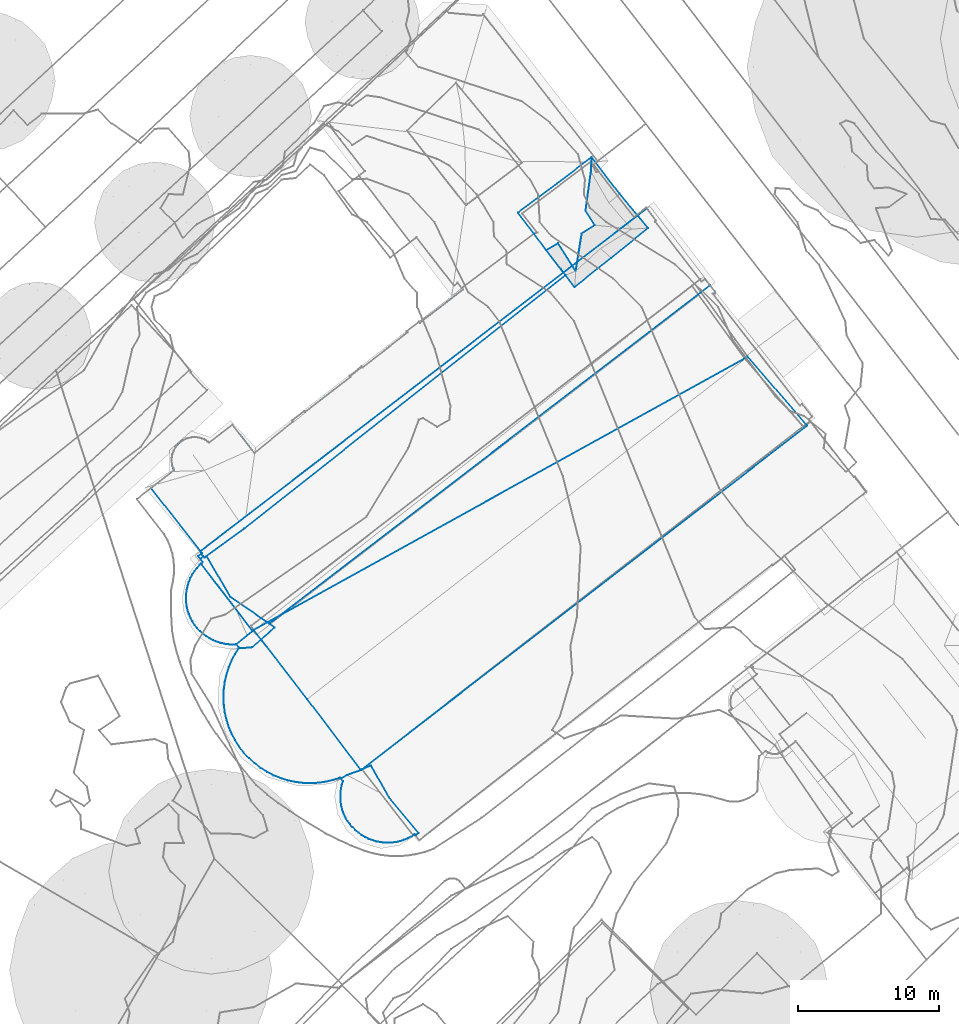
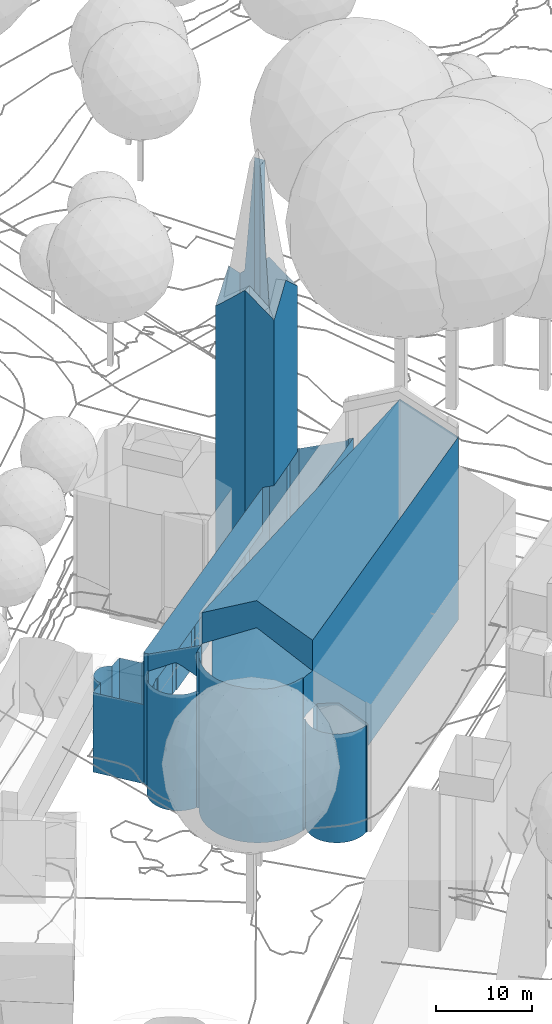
# Not in any storey, part 29 of 477: 2 walls.
"""IFC4 building model written with IfcOpenShell, lengths in metres."""

from ifc_helpers import new_model, si_unit, frame, origin_with_axes, place, context, subcontext, project, spatial, polygons, element, save


model = new_model("IFC4")

# Units and contexts
model_context = context("Model", 3, precision=1e-05, world=origin_with_axes())
body_context = subcontext(model_context, "Body", "Model", "MODEL_VIEW")
ifc_project = project(units=[si_unit("AREAUNIT", "SQUARE_METRE"), si_unit("LENGTHUNIT", "METRE")], contexts=[model_context])

# Sites, building
site_1_placement = place(None, origin_with_axes())
site_1 = spatial("IfcSite", under=ifc_project, at=site_1_placement, Name="Topoexport Site")
site_2_placement = place(site_1_placement, origin_with_axes())
site_2 = spatial("IfcSite", under=site_1, at=site_2_placement, Name="TPX_BUILDINGS")
building_placement = place(site_2_placement, frame((140.4987320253, 222.5740160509, 530.262), z_axis=(0.0, 0.0, 1.0), x_axis=(1.0, 0.0, 0.0)))
building = spatial("IfcBuilding", under=site_2, at=building_placement, Name="Building 152", CompositionType="ELEMENT")

# Walls
wall_1_placement = place(None, frame((140.4987320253, 222.5740160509, 530.262), z_axis=(0.0, 0.0, 1.0), x_axis=(1.0, 0.0, 0.0)))
element("IfcWall", 1, at=wall_1_placement, inside=building, Name="Wall 1", context=body_context, shape_type="Tessellation", body=[
    polygons([(24.0830000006, 32.1660000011, 2.3338), (23.7030000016, 29.4199000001, 2.3338), (24.0830000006, 32.1660000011, 38.8453), (24.1420000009, 33.2148000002, 2.3338), (24.1420000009, 33.2148000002, 37.9304), (21.6850000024, 31.3408000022, 2.3338), (21.6850000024, 31.3409000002, 40.8551), (24.3619999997, 28.4013999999, 55.1068), (23.7030000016, 29.4200000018, 55.1068), (24.3619999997, 28.4013999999, 2.3338), (23.432, 27.7998000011, 2.3338), (23.0050000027, 25.1494000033, 2.3338), (21.7540000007, 27.0976999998, 2.3338), (23.0050000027, 25.1494000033, 38.8453), (23.432, 27.7998000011, 55.1048), (20.9180000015, 26.6152999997, 40.8551), (21.7540000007, 27.0976999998, 40.8551), (20.9180000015, 26.6152999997, 2.3338), (20.0500000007, 27.7920000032, 39.5353), (20.0500000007, 27.7920000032, 2.3338), (18.9100000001, 29.2725000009, 37.9304), (18.9100000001, 29.2725000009, 2.3338), (23.4310000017, 27.7989000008, 55.1068)], [[[3, 2, 1]], [[5, 1, 4]], [[7, 5, 6]], [[9, 8, 2]], [[8, 11, 10]], [[14, 13, 12]], [[15, 14, 11]], [[17, 16, 13]], [[16, 19, 18]], [[19, 21, 20]], [[21, 6, 22]], [[9, 2, 3]], [[3, 1, 5]], [[5, 4, 6]], [[8, 10, 2]], [[23, 11, 8]], [[17, 13, 14]], [[14, 12, 11]], [[16, 18, 13]], [[19, 20, 18]], [[21, 22, 20]], [[7, 6, 21]]]),
])
wall_2_placement = place(None, frame((140.4987320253, 222.5740160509, 530.262), z_axis=(0.0, 0.0, 1.0), x_axis=(1.0, 0.0, 0.0)))
element("IfcWall", 2, at=wall_2_placement, inside=building, Name="Wall 2", context=body_context, shape_type="Tessellation", body=[
    polygons([(2.0380000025, 0.7217000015, 19.5062), (0.2019999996, -0.2938999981, 23.4248), (0.2019999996, -0.2938999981, 19.4742), (0.2019999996, -0.2938999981, 19.3632), (35.2050000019, 19.0742000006, 0.0), (35.2050000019, 19.0742000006, 26.6015), (2.0380000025, 0.7217000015, 0.0), (28.7089000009, 28.7207000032, 16.7854), (28.6239, 28.6543000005, -0.2049), (28.6239, 28.6542000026, 16.7854), (-3.5700000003, 5.2969000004, 9.6791), (-0.8439999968, 7.389700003, 10.743), (-3.5700000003, 5.2969000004, 16.2925), (1.6970000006, 9.3418000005, 10.615), (-0.375, 7.75, 10.583), (-3.3029999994, 5.5020000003, 9.7321), (15.439000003, 19.8936000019, 10.694), (22.1420000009, 25.0410000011, 10.729), (22.1420000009, 25.0420000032, 16.2925), (-1.5309999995, 1.7920000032, 16.3235), (-1.5799999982, 1.8564999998, 16.3385), (0.1220000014, -0.360299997, 19.3652), (-1.6209999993, 1.9101999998, 16.3375), (-1.443, 1.6787, 16.2705), (0.1220000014, -0.360299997, 14.9526), (-1.1039999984, 1.2364000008, 16.0345), (-1.8029999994, 2.1465000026, 16.2205), (-3.5350000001, 4.4024000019, 16.6255), (-1.7039999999, 2.0186000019, 16.3005), (-1.6579999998, 1.9580000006, 16.3275), (-2.0339999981, 2.447300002, 15.9915), (-3.5350000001, 4.4024000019, 14.4227), (32.1730000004, 24.5800999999, 19.2462), (32.1730000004, 24.5800999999, -0.2049), (32.5240000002, 24.1319000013, -0.2049), (31.9360000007, 24.3955000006, -0.2049), (31.9360000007, 24.3955000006, 19.2472), (30.0730000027, 26.7920000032, 17.8623), (-2.9589999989, 12.9776000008, 9.7071), (-3.0709999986, 13.0645000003, 9.6991), (-2.9589999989, 12.9776000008, -0.4029), (-3.0719999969, 13.0655000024, -0.4029), (-3.3189999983, 13.2100000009, -0.4029), (-3.4499999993, 13.264700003, 9.6681), (-3.4499999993, 13.264700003, -0.4029), (-3.7259999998, 13.3388999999, -0.4029), (-3.7259999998, 13.3388999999, 9.6641), (-3.867999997, 13.3574000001, 9.6691), (-3.867999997, 13.3575000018, -0.4029), (-4.1569999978, 13.3564999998, -0.4029), (-4.1539999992, 13.3564999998, 9.6911), (-4.186999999, 13.3526000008, 9.6951), (-4.9489999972, 13.0606000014, 9.5811), (-4.8289999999, 13.1387000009, -0.4029), (-4.8289999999, 13.1387000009, 9.5891), (-4.9489999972, 13.0606000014, -0.4029), (-5.1649999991, 12.876000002, 9.5801), (-5.3439999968, 12.6543000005, -0.4029), (-5.481999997, 12.4063000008, 9.6401), (-5.481999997, 12.4063000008, -0.4029), (-5.3439999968, 12.6543000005, 9.6001), (-4.2949999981, 13.3379000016, 9.6711), (-4.2949999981, 13.3379000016, -0.4029), (-4.5709999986, 13.2617000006, 9.6201), (-4.5709999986, 13.2617000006, -0.4029), (-5.6030000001, 11.9990000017, -0.4029), (-5.6030000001, 11.9990000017, 9.6021), (-5.6209999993, 11.7149000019, 9.5921), (-5.5899999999, 11.4317000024, -0.4029), (-5.5899999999, 11.4317000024, 9.5991), (-5.5089999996, 11.1601999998, 9.6231), (-5.5099999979, 11.1631000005, -0.4029), (11.9660000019, 21.4610000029, -0.4029), (11.9050000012, 21.5401000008, 9.5131), (11.9050000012, 21.5410000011, -0.4029), (11.9660000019, 21.4610000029, 5.8175), (7.9079999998, 18.3037, -0.4029), (11.1050000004, 20.7901000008, -0.4029), (11.1050000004, 20.7901000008, 9.5401), (3.7900000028, 15.2276000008, -0.4029), (3.8509999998, 15.1485000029, 9.4481), (3.7900000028, 15.2276000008, 9.4091), (3.8509999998, 15.1485000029, -0.4029), (2.9210000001, 14.5518000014, 9.3981), (2.9210000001, 14.5518000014, -0.4029), (2.9820000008, 14.4726999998, -0.4029), (0.2540000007, 12.25, -0.4029), (2.9820000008, 14.4726999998, 9.4371), (0.2540000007, 12.25, 9.4321), (7.8470000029, 18.3828000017, -0.4029), (6.9860000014, 17.7129000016, 9.4501), (6.9860000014, 17.7129000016, -0.4029), (-5.4509999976, 11.0293000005, 7.1254), (-5.4959999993, 11.1319000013, 9.6271), (-5.4509999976, 11.0293000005, 9.6351), (-5.4509999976, 11.0293000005, 3.3617), (-5.4509999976, 11.0293000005, -0.4029), (15.0130000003, 23.8300999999, 7.0844), (14.9360000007, 23.9287, 9.5381), (15.0130000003, 23.8300999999, 9.5791), (15.0130000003, 23.8300999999, 2.0928), (15.0130000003, 23.8300999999, 4.5886), (15.0130000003, 23.8300999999, -0.4029), (14.9360000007, 23.9287, -0.4029), (20.0500000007, 27.7920000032, -0.4029), (20.9180000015, 26.6152999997, 2.3338), (20.0500000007, 27.7920000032, 9.6111), (20.9180000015, 26.6152999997, -0.4029), (-3.3019999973, 4.827200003, -0.4029), (-0.4969999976, 6.879900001, -0.2049), (-0.4969999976, 6.879900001, -0.4029), (-3.1359999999, 4.9483000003, -0.2049), (-3.1359999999, 4.9483000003, -0.3169), (-3.3019999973, 4.827200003, -0.3169), (-3.3949999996, 4.9356000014, -0.3169), (-3.5359999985, 5.1006000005, -0.4029), (-3.5359999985, 5.1006000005, -0.2049), (-3.3949999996, 4.9356000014, -0.2049), (22.2920000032, 24.8496000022, -0.4029), (22.2920000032, 24.8496000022, -0.2049), (32.5240000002, 24.1319000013, 19.5062), (1.2910000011, 0.1485000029, -0.2049), (1.2910000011, 0.1485000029, 0.0), (8.3500000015, -15.1005999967, 0.293), (8.3500000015, -15.1005999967, 14.1387), (8.6180000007, -15.2011999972, 14.1267), (8.6180000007, -15.2011999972, 0.293), (8.8940000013, -15.2792999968, 14.1287), (8.8940000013, -15.2792999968, 0.293), (9.1760000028, -15.3339999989, 0.293), (9.1750000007, -15.3339999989, 14.1417), (7.6119999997, -14.6659999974, 14.1387), (7.393000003, -14.4813999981, 0.293), (7.393000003, -14.4813999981, 14.1367), (7.6119999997, -14.6659999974, 0.293), (7.8450000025, -14.8310000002, 0.293), (6.6950000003, -13.5800999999, 0.293), (6.5720000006, -13.3125, 0.293), (6.6950000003, -13.5800999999, 14.1127), (6.8399999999, -13.8270999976, 14.1167), (6.8399999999, -13.8270999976, 0.293), (7.006000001, -14.0604999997, 8.9432), (7.006000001, -14.0604999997, 0.293), (6.3550000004, -12.4530999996, 14.1117), (6.3550000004, -12.4530999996, 0.293), (6.3340000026, -12.1581999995, 14.1267), (6.3340000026, -12.1571999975, 0.293), (6.4010000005, -12.745099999, 14.1087), (6.4010000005, -12.745099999, 0.293), (6.4740000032, -13.0321999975, 0.293), (10.8540000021, -15.1620999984, 14.0077), (10.8540000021, -15.1620999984, 0.293), (10.5860000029, -15.248999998, 0.293), (11.1150000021, -15.0537, 13.9737), (11.1150000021, -15.0537, 0.293), (11.3650000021, -14.9218999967, 13.9547), (11.3650000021, -14.9217999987, 0.293), (11.6030000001, -14.7704999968, 13.9497), (11.6030000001, -14.7704999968, 0.293), (11.8830000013, -14.6844999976, 0.293), (11.6520000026, -14.8329999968, 13.9027), (11.8830000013, -14.6844999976, 13.8987), (11.6520000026, -14.8329999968, 0.293), (9.7930000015, -12.1805999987, 0.293), (9.7930000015, -12.1805999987, 15.8205), (9.745000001, -15.3710999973, 14.0917), (9.745000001, -15.3710999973, 0.293), (9.4590000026, -15.3641999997, 0.293), (9.4590000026, -15.3641999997, 14.1237), (9.4590000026, -15.3641999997, 8.0722), (10.0310000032, -15.3534999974, 0.293), (10.3100000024, -15.3134999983, 0.293), (10.3100000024, -15.3134999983, 14.0697), (10.0310000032, -15.3534999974, 14.0747), (6.4310000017, -11.2782999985, 0.293), (6.3720000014, -11.5682999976, 14.1077), (6.3720000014, -11.5682999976, 0.293), (6.4310000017, -11.2782999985, 10.658), (6.4310000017, -11.2782999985, 5.4755), (6.3399999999, -11.8622999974, 0.293), (6.3399999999, -11.8622999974, 8.9322), (8.5170000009, -9.8983999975, 0.293), (8.5170000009, -9.8983999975, 14.7756), (39.4150000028, 14.1826000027, 23.2798), (7.8960000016, -10.1444999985, 0.293), (7.8960000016, -10.1444999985, 14.6286), (39.4150000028, 14.1826000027, 0.0), (7.7970000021, -10.2206999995, 19.3772), (7.7970000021, -10.2206999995, 0.0), (7.7970000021, -10.2206999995, 23.2798), (7.7970000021, -10.2206999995, 0.293), (7.7970000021, -10.2206999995, 14.6156), (-3.4109999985, -0.566399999, 14.4567), (-3.185999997, -0.7372999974, 14.4507), (-3.4109999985, -0.566399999, 6.1464), (-3.185999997, -0.7372999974, -0.3169), (-3.4109999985, -0.566399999, -0.3169), (-2.9459999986, -0.8895999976, -0.3169), (-2.9459999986, -0.8895999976, 14.4597), (-2.6959999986, -1.0194999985, -0.3169), (-2.6950000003, -1.0194999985, 14.4836), (-4.1429999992, 0.2920000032, -0.3169), (-4.1659999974, 0.3350000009, 14.4377), (-4.1429999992, 0.2920000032, 14.4337), (-4.1679999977, 0.3388999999, -0.3169), (-3.987999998, 0.0547000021, -0.3169), (-3.987999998, 0.0547000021, 14.4257), (-3.8139999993, -0.1678999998, -0.3169), (-3.6209999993, -0.3759999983, 6.1464), (-3.8139999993, -0.1678999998, 14.4327), (-3.6209999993, -0.3759000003, 14.4557), (-3.6209999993, -0.3759000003, -0.3169), (-4.3919999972, 0.8096000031, 14.4217), (-4.3919999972, 0.8096000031, -0.3169), (-4.481999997, 1.0869000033, -0.3169), (-4.2769999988, 0.5420000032, -0.3169), (-4.2769999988, 0.5420000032, 14.4237), (-4.5889999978, 1.6612000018, 14.4107), (-4.5889999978, 1.6612000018, -0.3169), (-4.6039999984, 1.952200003, 14.4167), (-4.6039999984, 1.9502000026, -0.3169), (-4.5480000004, 1.3721000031, 7.9743), (-4.5480000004, 1.3721000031, 14.4227), (-4.5480000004, 1.3721000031, -0.3169), (-1.3229999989, -1.3290999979, 14.5166), (-1.0399999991, -1.3192999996, 14.5406), (-1.3229999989, -1.3290999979, 10.802), (-1.3229999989, -1.3290999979, -0.3169), (-1.0399999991, -1.3192999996, -0.3169), (0.0890000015, -1.5282999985, -0.3169), (-0.8789999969, -1.6014999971, -0.071), (0.0890000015, -1.5282999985, -0.071), (-2.1629999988, -1.2137999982, -0.3169), (-2.4329999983, -1.1278999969, -0.3169), (-2.1629999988, -1.2137999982, 14.4656), (-2.4329999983, -1.1278999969, 14.4746), (-2.4329999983, -1.1278999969, 10.776), (-1.8869999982, -1.2762999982, -0.3169), (-1.8869999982, -1.2762999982, 14.4716), (-1.6059999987, -1.3153999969, 5.2365), (-1.6059999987, -1.3153999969, -0.3169), (-4.555999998, 2.5322000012, -0.3169), (-4.493999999, 2.817400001, 14.3887), (-4.555999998, 2.5322000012, 14.3847), (-4.493999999, 2.817400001, -0.3169), (-4.5929999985, 2.2442000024, -0.3169), (-3.8259999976, 4.1026000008, 14.3947), (-3.8259999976, 4.1026000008, -0.3169), (-3.6289999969, 4.317400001, -0.3169), (-3.6289999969, 4.317400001, 14.4087), (-3.924999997, 3.9737000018, 14.3957), (-4.0039999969, 3.8721000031, -0.3169), (-1.3719999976, -7.6356999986, -0.071), (-1.3719999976, -7.6347000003, 19.5682), (-1.125, -8.1074000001, -0.071), (-1.125, -8.1074000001, 19.5362), (-0.8359999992, -8.5604999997, 19.5332), (-0.8359999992, -8.5604999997, -0.071), (-0.5079999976, -8.9862999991, -0.071), (-0.5079999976, -8.9862999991, 10.971), (-1.8530000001, -6.1132999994, 19.5652), (-1.9230000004, -5.5917999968, -0.071), (-1.9189999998, -5.619099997, 19.6072), (-1.8530000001, -6.1132999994, -0.071), (-1.7369999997, -6.6347000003, -0.071), (-1.8550000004, -3.9912, -0.071), (-1.9239999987, -4.5194999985, 19.5692), (-1.9239999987, -4.5194999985, -0.071), (-1.9469999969, -5.052699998, -0.071), (-1.9230000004, -5.5848999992, 19.6032), (-1.9469999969, -5.052699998, 19.5722), (-1.5799999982, -2.9618999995, -0.071), (-1.3759999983, -2.4696999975, -0.071), (-1.3759999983, -2.4696999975, 19.5732), (-1.129999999, -1.9960999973, -0.071), (-1.129999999, -1.9960999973, 19.5992), (6.3260000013, -10.7567999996, 19.3772), (6.3260000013, -10.7567999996, 12.0639), (5.8159999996, -10.9266999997, 19.4332), (6.3260000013, -10.7567999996, -0.071), (5.8150000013, -10.9266999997, -0.071), (2.1130000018, -10.802699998, -0.071), (2.6270000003, -10.9598999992, 19.4452), (2.6270000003, -10.9598999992, -0.071), (2.1130000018, -10.802699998, 19.4522), (3.1530000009, -11.0722000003, 4.8136), (3.1530000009, -11.0722000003, 19.4682), (3.1530000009, -11.0722000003, -0.071), (1.6150000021, -10.6005999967, -0.071), (1.6150000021, -10.6005999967, 19.4882), (1.6150000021, -10.6005999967, 10.931), (3.6860000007, -11.1376999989, 14.5796), (4.2240000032, -11.1552999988, -0.071), (3.6860000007, -11.1376999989, -0.071), (4.7600000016, -11.125, 19.4222), (4.2240000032, -11.1552999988, 19.4282), (5.2920000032, -11.0497999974, 14.5666), (5.2920000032, -11.0497999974, 19.4452), (5.2920000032, -11.0497999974, -0.071), (4.7600000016, -11.125, -0.071), (-0.1429999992, -9.3807999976, 14.6346), (0.2540000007, -9.7430999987, 19.5012), (-0.1429999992, -9.3807999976, -0.071), (0.2540000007, -9.7431999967, -0.071), (0.682, -10.0682999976, -0.071), (0.682, -10.0682999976, 19.4952), (1.1380000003, -10.3553999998, 19.5182), (1.137000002, -10.3553999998, -0.071), (3.9820000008, -5.1805999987, 23.1468), (3.9820000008, -5.1805999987, 26.6015), (0.7220000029, -0.9667999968, -0.071), (1.6780000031, -0.1162, 0.0), (1.6780000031, -0.1162, -0.3169), (0.7220000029, -0.9667999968, 0.0), (-1.4419999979, 2.0196000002, -0.3169), (-1.4419999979, 2.0196000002, -0.2049), (-3.5769999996, 4.7295000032, -0.2049), (-3.5769999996, 4.7295000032, -0.3169), (7.7970000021, -10.2206999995, -0.071), (3.9820000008, -5.1805999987, 0.0), (3.9820000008, -5.1805999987, -0.071), (6.8049999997, -10.5751999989, 0.293), (6.8049999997, -10.5751999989, -0.071), (6.8049999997, -10.5751999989, 19.3382), (6.3770000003, -10.8213, 0.293), (6.8049999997, -10.5751999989, 14.3706), (6.3770000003, -10.8213, 19.3382), (-0.2749999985, -0.6854999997, 14.9636), (-1.0429999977, -1.3143999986, 19.3722), (20.9180000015, 26.6152999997, 10.0911), (21.7540000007, 27.0976999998, 40.8551), (20.9180000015, 26.6152999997, 40.8551), (21.7540000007, 27.0976999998, 2.3338), (23.1070000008, 25.7813000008, 2.3338), (23.1070000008, 25.7813000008, 16.2925), (22.7670000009, 25.5205000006, 16.2925), (22.7670000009, 25.5205000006, 2.3338), (22.1420000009, 25.0410000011, -0.2049), (22.1420000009, 25.0410000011, 2.3338), (28.0470000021, 29.5752000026, -0.2049), (27.4000000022, 29.0791000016, 2.3338), (28.0470000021, 29.5752000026, 16.2925), (27.4000000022, 29.0791000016, 16.2925), (21.6040000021, 25.7314999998, 16.7944), (21.9470000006, 25.2910000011, 31.683), (21.9470000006, 25.2910000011, 23.9917), (21.9470000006, 25.2910000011, 16.3005), (22.2920000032, 24.8496000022, 16.4035), (22.1390000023, 25.0449000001, 31.408), (22.2920000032, 24.8496000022, 38.8803), (21.9860000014, 25.2402999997, 39.3183), (22.1390000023, 25.0449000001, 23.7178), (21.9850000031, 25.2393000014, 10.648), (23.0050000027, 25.1494000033, 38.8453), (23.0050000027, 25.1494000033, 16.4925), (24.0830000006, 32.1660000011, 2.3338), (24.1420000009, 33.2149000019, 37.9304), (24.0830000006, 32.1660000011, 38.8453), (24.1420000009, 33.2149000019, 2.3338), (26.1229999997, 30.6055000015, 2.3338), (23.7030000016, 29.4199000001, 2.3338), (23.7030000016, 29.4200000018, 55.1068), (26.1229999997, 30.6055000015, 40.8551), (28.143000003, 28.1905000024, 16.8204), (28.143000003, 28.1905000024, 37.9304), (25.5170000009, 26.067400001, 16.8584), (24.3619999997, 28.4013999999, 2.3338), (24.3619999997, 28.4013999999, 55.1068), (23.432, 27.7998000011, 2.3338), (23.432, 27.7998000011, 55.1068), (22.9200000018, 24.004900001, 37.9304), (25.5170000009, 26.067400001, 40.8551), (22.9200000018, 24.004900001, 16.8834), (-3.4619999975, 5.1582000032, 16.3725), (-3.4619999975, 5.1582000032, -0.4029), (-7.0779999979, 9.7627000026, -0.4029), (-7.0779999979, 9.7627000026, 9.7151), (-3.7390000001, 4.942400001, -0.2049), (-3.7390000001, 4.942400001, 16.3735), (-3.4129999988, 4.5137000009, -0.3169), (-3.4129999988, 4.5137000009, 16.6195), (-3.1429999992, 13.1064999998, -0.4029), (-3.3189999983, 13.2100000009, 9.6761), (-3.1429999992, 13.1064999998, 9.6971), (-1.3159999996, 14.259800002, 9.3842), (-1.3159999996, 14.259800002, -0.4029), (-1.8029999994, 13.879900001, 9.5401), (0.0430000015, 12.5196000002, 9.4041), (-5.4899999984, 12.3838, 9.6451), (-5.5749999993, 12.1377000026, 9.6131), (-5.5749999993, 12.1377000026, -0.4029), (11.0439999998, 20.8692000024, 9.5021), (11.0439999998, 20.8692000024, -0.4029), (11.9050000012, 21.5410000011, 4.5356), (11.8090000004, 21.4649000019, -0.4029), (11.9050000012, 21.5410000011, 7.0244), (7.9079999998, 18.3037, 9.4991), (7.8470000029, 18.3828000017, 9.4611), (7.0470000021, 17.6338, 9.4881), (7.0470000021, 17.6338, -0.4029), (5.3720000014, 16.3311000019, 9.4671), (-6.754999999, 10.014700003, -0.4029), (-6.754999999, 10.014700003, 9.7801), (-5.560999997, 10.943400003, 9.5971), (13.7039999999, 22.8115000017, 9.5721), (11.9660000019, 21.4610000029, 9.5501), (13.7039999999, 22.8115999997, -0.4029), (14.5340000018, 23.4571000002, -0.4029), (14.8010000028, 23.6651000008, 9.5781), (14.5340000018, 23.4571000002, 9.5751), (8.0920000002, -14.9764999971, 14.1637), (8.0910000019, -14.9755999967, 0.293), (8.0350000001, -14.9432999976, 14.1716), (7.8450000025, -14.8310000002, 10.687), (7.8450000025, -14.8310000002, 14.1517), (9.2760000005, -15.3456999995, 14.1516), (7.1900000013, -14.2792999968, 14.1477), (7.189000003, -14.2782999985, 0.293), (7.1400000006, -14.2206999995, 14.1537), (7.006000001, -14.0604999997, 14.1337), (6.5310000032, -13.1932999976, 14.1337), (6.5720000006, -13.311499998, 14.1237), (6.4740000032, -13.0321999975, 10.663), (6.4740000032, -13.0321999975, 14.1197), (6.3350000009, -12.0917999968, 14.1327), (6.3399999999, -11.8622999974, 14.1167), (10.4920000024, -15.2714999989, 14.0747), (10.5860000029, -15.248999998, 14.0537), (6.4800000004, -11.1141999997, 0.293), (6.5150000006, -10.994099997, 0.293), (6.5150000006, -10.994099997, 14.1577), (6.4800000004, -11.1141999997, 14.1237), (6.4310000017, -11.2782999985, 14.1127), (-3.5419999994, -0.4472000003, -0.3169), (-3.5419999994, -0.4472000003, 14.4697), (-2.6339999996, -1.0438999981, 14.4926), (-4.481999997, 1.0879000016, 14.4377), (-4.4959999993, 1.1485000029, 14.4447), (-4.5929999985, 2.2442000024, 14.3967), (-4.6019999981, 2.0030000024, 14.4207), (-1.4560000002, -1.3222000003, 14.5116), (-1.6059999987, -1.3153999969, 14.4926), (-1.4560000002, -1.3222000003, -0.3169), (-0.8439999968, -1.5458999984, 19.5552), (-0.8439999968, -1.5458999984, -0.3169), (-4.4069999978, 3.0957000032, -0.3169), (-4.4069999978, 3.0957000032, 14.4057), (-1.5759999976, -7.1425999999, -0.071), (-1.5759999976, -7.1425999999, 19.5602), (-1.436999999, -7.4774999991, 19.5881), (-0.379999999, -9.123999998, 19.5781), (-0.1429999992, -9.3807999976, 19.5362), (-0.5079999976, -8.9862999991, 19.5581), (-0.379999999, -9.123999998, -0.071), (-1.7399999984, -3.4706999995, 19.6032), (-1.7399999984, -3.4706999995, -0.071), (-1.7859999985, -3.6787, 19.6262), (-1.8550000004, -3.9912, 19.5942), (-0.8789999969, -1.6014999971, -0.3169), (-1.0669999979, -1.8973999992, 19.6112), (5.5700000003, -10.9843999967, 19.4731), (6.3770000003, -10.8213, -0.071), (6.3660000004, -10.807599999, 19.3382), (6.3770000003, -10.8213, 14.1037), (3.4260000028, -11.1053999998, 19.4951), (3.6860000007, -11.1376999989, 19.4632), (3.4260000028, -11.1053999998, -0.071), (1.2790000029, -10.4287, -0.071), (1.2790000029, -10.4287, 19.5341), (21.9850000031, 25.2393000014, -0.4029), (21.9850000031, 25.2393000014, 2.3338), (28.7090000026, 28.7207000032, -0.2049), (-5.1649999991, 12.876000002, -0.4029), (-5.6209999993, 11.7149000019, -0.4029), (11.9044000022, 21.5382000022, 9.5131), (11.9050000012, 21.5395000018, 7.0244), (11.9056000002, 21.5402000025, 4.5356), (-4.2960000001, 3.3662, 14.3847), (-4.2960000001, 3.3662, -0.3169), (-4.1609999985, 3.626000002, 14.3817), (-4.1609999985, 3.626000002, -0.3169), (-4.0039999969, 3.8721000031, 14.3957), (-1.7369999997, -6.6347000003, 19.5482), (-1.5799999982, -2.9618999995, 19.5742)], [[[3, 2, 1]], [[4, 3, 1]], [[1, 6, 5]], [[6, 1, 2]], [[5, 7, 1]], [[10, 9, 8]], [[13, 12, 11]], [[15, 12, 14]], [[12, 16, 11]], [[12, 13, 14]], [[19, 18, 17]], [[14, 13, 17]], [[13, 19, 17]], [[22, 21, 20]], [[21, 22, 23]], [[22, 20, 24]], [[26, 25, 22]], [[24, 26, 22]], [[29, 28, 27]], [[29, 30, 22]], [[27, 28, 31]], [[23, 22, 30]], [[32, 31, 28]], [[22, 28, 29]], [[35, 34, 33]], [[37, 34, 36]], [[33, 34, 37]], [[38, 37, 9]], [[41, 40, 39]], [[40, 41, 42]], [[45, 44, 43]], [[46, 44, 45]], [[46, 47, 44]], [[49, 48, 46]], [[51, 49, 50]], [[48, 49, 51]], [[50, 52, 51]], [[55, 54, 53]], [[53, 54, 56]], [[56, 57, 53]], [[60, 59, 58]], [[59, 61, 58]], [[62, 52, 50]], [[62, 50, 63]], [[62, 63, 64]], [[64, 65, 55]], [[68, 67, 66]], [[70, 68, 69]], [[72, 71, 70]], [[75, 74, 73]], [[73, 74, 76]], [[79, 78, 77]], [[82, 81, 80]], [[80, 81, 83]], [[85, 84, 82]], [[84, 85, 86]], [[89, 88, 87]], [[88, 86, 87]], [[92, 91, 90]], [[95, 94, 93]], [[97, 96, 72]], [[100, 99, 98]], [[102, 99, 101]], [[99, 104, 103]], [[107, 106, 105]], [[106, 108, 105]], [[104, 99, 107]], [[105, 104, 107]], [[111, 110, 109]], [[113, 110, 112]], [[109, 110, 113]], [[114, 109, 113]], [[114, 115, 109]], [[109, 115, 116]], [[117, 116, 115]], [[117, 115, 118]], [[120, 110, 119]], [[121, 1, 35]], [[7, 122, 35]], [[122, 7, 123]], [[7, 35, 1]], [[126, 125, 124]], [[127, 126, 124]], [[128, 126, 127]], [[128, 127, 129]], [[131, 129, 130]], [[134, 133, 132]], [[132, 133, 135]], [[132, 135, 136]], [[139, 138, 137]], [[141, 140, 137]], [[139, 137, 140]], [[143, 142, 140]], [[143, 140, 141]], [[146, 145, 144]], [[146, 147, 145]], [[144, 149, 148]], [[144, 145, 149]], [[148, 149, 150]], [[153, 152, 151]], [[151, 155, 154]], [[151, 152, 155]], [[157, 156, 154]], [[154, 155, 157]], [[159, 158, 157]], [[156, 157, 158]], [[162, 161, 160]], [[161, 163, 160]], [[165, 162, 164]], [[168, 167, 166]], [[170, 166, 169]], [[170, 168, 166]], [[166, 167, 171]], [[173, 171, 172]], [[173, 174, 171]], [[177, 176, 175]], [[179, 176, 178]], [[179, 175, 176]], [[181, 176, 180]], [[176, 177, 180]], [[183, 164, 182]], [[6, 184, 5]], [[186, 182, 185]], [[184, 186, 187]], [[186, 184, 188]], [[187, 185, 189]], [[185, 187, 186]], [[190, 188, 184]], [[191, 189, 185]], [[188, 192, 186]], [[195, 194, 193]], [[194, 195, 196]], [[195, 197, 196]], [[199, 196, 198]], [[201, 199, 200]], [[199, 198, 200]], [[204, 203, 202]], [[203, 205, 202]], [[207, 204, 206]], [[204, 202, 206]], [[207, 206, 208]], [[211, 210, 209]], [[212, 209, 210]], [[210, 208, 212]], [[215, 214, 213]], [[217, 214, 216]], [[205, 203, 217]], [[220, 219, 218]], [[220, 221, 219]], [[223, 218, 222]], [[218, 219, 224]], [[227, 226, 225]], [[228, 226, 227]], [[226, 228, 229]], [[232, 231, 230]], [[235, 234, 233]], [[237, 235, 236]], [[239, 233, 238]], [[241, 240, 239]], [[239, 238, 241]], [[244, 243, 242]], [[243, 245, 242]], [[244, 242, 246]], [[249, 248, 247]], [[249, 247, 250]], [[252, 251, 248]], [[255, 254, 253]], [[257, 256, 255]], [[255, 258, 257]], [[259, 257, 258]], [[259, 260, 257]], [[263, 262, 261]], [[261, 262, 264]], [[261, 264, 265]], [[268, 267, 266]], [[267, 268, 269]], [[262, 270, 269]], [[270, 271, 269]], [[263, 270, 262]], [[274, 273, 272]], [[276, 275, 273]], [[279, 278, 277]], [[278, 279, 280]], [[279, 281, 280]], [[284, 283, 282]], [[285, 282, 283]], [[287, 283, 286]], [[283, 284, 288]], [[282, 285, 289]], [[291, 285, 290]], [[294, 293, 292]], [[296, 293, 295]], [[298, 295, 297]], [[295, 300, 299]], [[303, 302, 301]], [[302, 303, 304]], [[306, 302, 305]], [[302, 304, 305]], [[308, 307, 306]], [[306, 305, 308]], [[190, 309, 188]], [[310, 2, 309]], [[313, 312, 311]], [[311, 312, 314]], [[311, 232, 230]], [[311, 230, 313]], [[316, 122, 315]], [[315, 122, 313]], [[123, 312, 313]], [[123, 313, 122]], [[113, 112, 316]], [[316, 315, 113]], [[318, 317, 118]], [[118, 115, 318]], [[321, 320, 319]], [[189, 319, 320]], [[191, 322, 189]], [[189, 323, 319]], [[188, 324, 192]], [[322, 325, 323]], [[324, 327, 326]], [[311, 314, 320]], [[320, 321, 311]], [[329, 328, 226]], [[328, 329, 22]], [[22, 3, 4]], [[3, 22, 329]], [[22, 25, 328]], [[332, 331, 330]], [[330, 333, 106]], [[336, 335, 334]], [[336, 334, 337]], [[339, 337, 338]], [[338, 337, 334]], [[334, 340, 338]], [[343, 342, 341]], [[341, 342, 340]], [[341, 340, 334]], [[346, 345, 344]], [[347, 346, 344]], [[350, 349, 348]], [[349, 350, 351]], [[351, 345, 349]], [[352, 349, 346]], [[19, 348, 352]], [[19, 353, 18]], [[347, 353, 19]], [[352, 346, 19]], [[348, 349, 352]], [[345, 351, 332]], [[344, 330, 353]], [[345, 330, 344]], [[330, 345, 332]], [[344, 353, 347]], [[346, 347, 19]], [[331, 336, 333]], [[336, 331, 354]], [[333, 336, 337]], [[355, 336, 354]], [[358, 357, 356]], [[357, 360, 359]], [[362, 358, 361]], [[360, 343, 341]], [[343, 360, 363]], [[343, 365, 364]], [[365, 343, 363]], [[365, 366, 364]], [[368, 362, 367]], [[370, 368, 369]], [[354, 335, 355]], [[335, 354, 370]], [[335, 369, 334]], [[369, 335, 370]], [[372, 371, 366]], [[371, 348, 373]], [[374, 13, 11]], [[374, 11, 375]], [[11, 376, 375]], [[376, 11, 377]], [[378, 374, 117]], [[374, 378, 379]], [[117, 375, 116]], [[375, 117, 374]], [[381, 379, 380]], [[380, 379, 317]], [[378, 317, 379]], [[317, 318, 380]], [[32, 28, 381]], [[249, 250, 32]], [[32, 381, 249]], [[380, 249, 381]], [[43, 383, 382]], [[383, 42, 382]], [[383, 40, 42]], [[40, 383, 384]], [[385, 41, 39]], [[386, 41, 385]], [[385, 39, 387]], [[385, 388, 87]], [[87, 386, 385]], [[388, 89, 87]], [[390, 389, 59]], [[60, 390, 59]], [[60, 391, 390]], [[394, 393, 392]], [[394, 395, 393]], [[392, 74, 396]], [[394, 75, 395]], [[396, 394, 392]], [[79, 392, 78]], [[78, 392, 393]], [[398, 397, 90]], [[77, 90, 397]], [[91, 400, 399]], [[92, 400, 91]], [[401, 83, 81]], [[401, 399, 400]], [[83, 401, 400]], [[402, 377, 96]], [[377, 402, 376]], [[97, 402, 96]], [[93, 377, 403]], [[93, 403, 404]], [[93, 96, 377]], [[95, 93, 404]], [[406, 405, 76]], [[407, 76, 102]], [[407, 73, 76]], [[407, 101, 408]], [[102, 76, 405]], [[410, 409, 98]], [[100, 98, 409]], [[98, 102, 405]], [[101, 103, 408]], [[102, 101, 407]], [[405, 410, 98]], [[412, 411, 136]], [[414, 411, 413]], [[414, 413, 415]], [[136, 411, 414]], [[170, 169, 416]], [[170, 416, 131]], [[170, 131, 130]], [[170, 130, 168]], [[418, 417, 143]], [[143, 417, 142]], [[142, 417, 419]], [[142, 419, 420]], [[423, 422, 421]], [[423, 421, 424]], [[422, 423, 150]], [[422, 150, 138]], [[180, 147, 181]], [[181, 146, 425]], [[181, 425, 426]], [[146, 181, 147]], [[172, 153, 173]], [[173, 428, 427]], [[428, 173, 153]], [[175, 179, 429]], [[430, 429, 179]], [[432, 431, 178]], [[178, 433, 432]], [[178, 431, 179]], [[431, 430, 179]], [[195, 209, 212]], [[195, 434, 197]], [[434, 195, 212]], [[209, 193, 435]], [[209, 435, 211]], [[209, 195, 193]], [[237, 236, 436]], [[237, 436, 201]], [[237, 201, 234]], [[201, 200, 234]], [[215, 437, 222]], [[215, 222, 224]], [[222, 437, 438]], [[222, 438, 223]], [[246, 220, 439]], [[246, 221, 220]], [[439, 220, 440]], [[227, 225, 441]], [[227, 441, 442]], [[227, 442, 228]], [[240, 443, 228]], [[443, 240, 241]], [[240, 228, 442]], [[444, 329, 226]], [[226, 229, 444]], [[444, 229, 445]], [[446, 245, 243]], [[243, 447, 446]], [[254, 449, 448]], [[253, 254, 448]], [[449, 254, 450]], [[301, 452, 451]], [[301, 451, 453]], [[301, 260, 303]], [[260, 301, 453]], [[454, 303, 260]], [[259, 454, 260]], [[456, 266, 455]], [[455, 458, 457]], [[455, 266, 458]], [[275, 276, 231]], [[459, 231, 445]], [[276, 445, 231]], [[276, 460, 444]], [[276, 444, 445]], [[297, 279, 461]], [[297, 461, 298]], [[299, 279, 297]], [[279, 299, 281]], [[430, 278, 325]], [[278, 430, 431]], [[325, 278, 280]], [[280, 462, 325]], [[463, 277, 278]], [[327, 463, 278]], [[464, 327, 278]], [[431, 464, 278]], [[292, 466, 465]], [[292, 465, 287]], [[292, 287, 294]], [[294, 287, 286]], [[467, 294, 286]], [[288, 467, 286]], [[291, 307, 308]], [[291, 468, 289]], [[468, 291, 308]], [[307, 290, 469]], [[307, 291, 290]], [[108, 106, 470]], [[470, 338, 119]], [[471, 338, 470]], [[470, 106, 471]], [[120, 119, 338]], [[338, 471, 339]], [[472, 8, 9]], [[340, 342, 472]], [[8, 472, 342]], [[33, 121, 35]], [[10, 38, 9]], [[37, 36, 9]], [[44, 383, 43]], [[47, 46, 48]], [[473, 57, 56]], [[58, 61, 57]], [[57, 473, 58]], [[65, 64, 63]], [[54, 55, 65]], [[66, 67, 390]], [[390, 391, 66]], [[474, 68, 66]], [[68, 474, 69]], [[70, 69, 72]], [[71, 72, 94]], [[477, 476, 475]], [[74, 75, 394]], [[406, 76, 74]], [[397, 79, 77]], [[82, 80, 85]], [[84, 86, 88]], [[398, 90, 91]], [[93, 72, 96]], [[94, 72, 93]], [[102, 98, 99]], [[99, 103, 101]], [[330, 106, 107]], [[110, 111, 119]], [[411, 412, 125]], [[124, 125, 412]], [[128, 129, 131]], [[417, 133, 134]], [[418, 133, 417]], [[415, 132, 414]], [[136, 414, 132]], [[138, 139, 422]], [[420, 140, 142]], [[424, 148, 423]], [[150, 423, 148]], [[153, 151, 428]], [[158, 163, 161]], [[158, 159, 163]], [[162, 160, 164]], [[166, 171, 174]], [[176, 433, 178]], [[426, 176, 181]], [[165, 164, 183]], [[184, 187, 5]], [[183, 182, 186]], [[199, 194, 196]], [[210, 207, 208]], [[437, 215, 213]], [[213, 214, 217]], [[217, 216, 205]], [[218, 224, 222]], [[231, 459, 230]], [[234, 235, 237]], [[235, 233, 239]], [[240, 442, 239]], [[244, 246, 439]], [[480, 479, 478]], [[480, 481, 479]], [[478, 446, 447]], [[478, 479, 446]], [[481, 480, 252]], [[482, 252, 480]], [[251, 252, 482]], [[247, 248, 251]], [[254, 255, 256]], [[453, 257, 260]], [[261, 265, 483]], [[449, 265, 448]], [[483, 265, 449]], [[267, 458, 266]], [[267, 269, 271]], [[272, 484, 274]], [[484, 456, 455]], [[484, 272, 456]], [[276, 273, 274]], [[283, 288, 286]], [[289, 285, 291]], [[466, 293, 296]], [[293, 466, 292]], [[300, 295, 293]], [[299, 297, 295]], [[302, 452, 301]], [[310, 309, 190]], [[2, 3, 309]], [[322, 323, 189]], [[324, 326, 192]], [[325, 462, 323]], [[327, 464, 326]], [[331, 333, 330]], [[349, 345, 346]], [[357, 359, 356]], [[363, 360, 357]], [[358, 356, 361]], [[372, 366, 365]], [[362, 361, 367]], [[368, 367, 369]], [[371, 373, 366]], [[350, 348, 371]]]),
])

save(model, "model.ifc")
